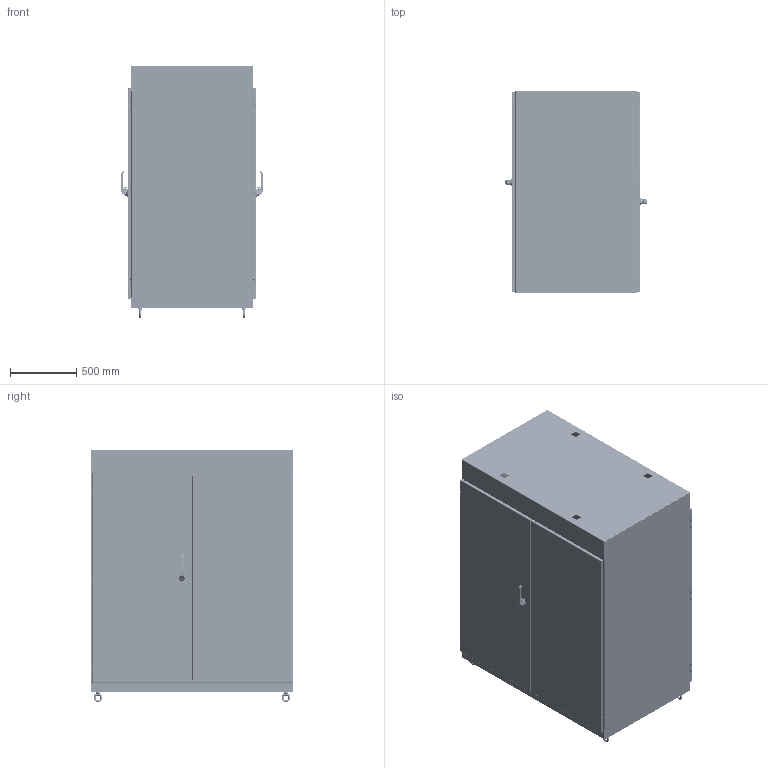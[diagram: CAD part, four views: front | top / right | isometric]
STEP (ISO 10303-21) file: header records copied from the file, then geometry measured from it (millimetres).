
FILE_DESCRIPTION((''),'2;1');
FILE_NAME('MODEL-247_ASM','2021-04-26T07:52:56',('joelb'),('SAGINAW CONTROL & ENGINEERING'),'CREO PARAMETRIC BY PTC INC, 2017260','CREO PARAMETRIC BY PTC INC, 2017260','');
FILE_SCHEMA(('AUTOMOTIVE_DESIGN { 1 0 10303 214 1 1 1 1 }'));
Length unit declared in the file: inch
Products named in the file (68): MODEL-247-L-SD; MODEL-247-TP; MODEL-247-BTM; MODEL-247-R-SD; MODEL-247-F-MSTR; 100837; 111267; 100882; 100954_HANDLE; 100954_HANDLE_INSERT; 100954_SHAFT_CAM; 100954_ADAPTER_CAM; 100954_NUT_CAM; 100954_BASE; 100954_O-RING; 100954_WASHER_SEALING; 100954_NUT_MOUNTING_LARGE; 100954_NUT_MOUNTING_SMALL; 100954_SCREW_SMALL; 100954_INSERT; 100954_PADLOCK_CATCH; 100954_STOP_CAM; 100954_ASM; 102236; 100030; 102236_ASM; MODEL-247-ROD-F-UPR; 128146; 128145; 128144; 102482; MODEL-247-ROD-F-UPR_ASM; 128143; 112504; MODEL-247-ROD-F-LWR; MODEL-247-ROD-F-LWR_ASM; MODEL-247-PR-GSK-FM; 128257; 126397; 128257_ASM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
Assembly tree (213 placements, depth 4):
  MODEL-247_ASM
    MODEL-247-L-SD
    MODEL-247-TP
    MODEL-247-BTM
    MODEL-247-R-SD
    MODEL-247-F-MASTER-DR-ASSY_ASM
      MODEL-247-F-MSTR
      100837  x5
      111267
      100882  x10
      100954_ASM
        100954_HANDLE
        100954_HANDLE_INSERT
        100954_SHAFT_CAM
        100954_ADAPTER_CAM
        100954_NUT_CAM
        100954_BASE
        100954_O-RING
        100954_WASHER_SEALING
        100954_NUT_MOUNTING_LARGE
        100954_NUT_MOUNTING_SMALL
        100954_SCREW_SMALL
        100954_INSERT
        100954_PADLOCK_CATCH
        100954_STOP_CAM
      102236_ASM
        102236
        100030  x2
      MODEL-247-ROD-F-UPR_ASM
        MODEL-247-ROD-F-UPR
        128146
        128145
        128144
        102482  x2
      128143  x2
      112504  x2
      MODEL-247-ROD-F-LWR_ASM
        MODEL-247-ROD-F-LWR
        128146
        128145
        128144
        102482  x2
      MODEL-247-PR-GSK-FM
      128257_ASM  x3
        128257
        126397
      126393  x3
      102483  x3
      101369_ASM  x3
        101369
        101369-STUD
      101221  x3
    MODEL-247-F-SLAVE-DR-ASSY_ASM
      MODEL-247-F-SLV
      100837
      MODEL-247-PR-GSK-FS
      128257_ASM  x3
        128257
        126397
      126393  x3
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Bounding box: 1068.75 x 1524 x 1903.6 mm (x, y, z)
Volume: 40022283.4 mm3; surface area: 29155201.2 mm2
Topology: 254 solids, 254 shells, 24359 faces, 64177 edges, 40488 vertices
Faces by surface type: plane 8646, cylinder 6643, bspline 5944, cone 1352, torus 1350, sphere 424
Entity records: 294592 total; most frequent: CARTESIAN_POINT 90856, ORIENTED_EDGE 29490, DIRECTION 28369, PRESENTATION_STYLE_ASSIGNMENT 15549, STYLED_ITEM 15444, EDGE_CURVE 14745, CURVE_STYLE 14733, AXIS2_PLACEMENT_3D 10632
